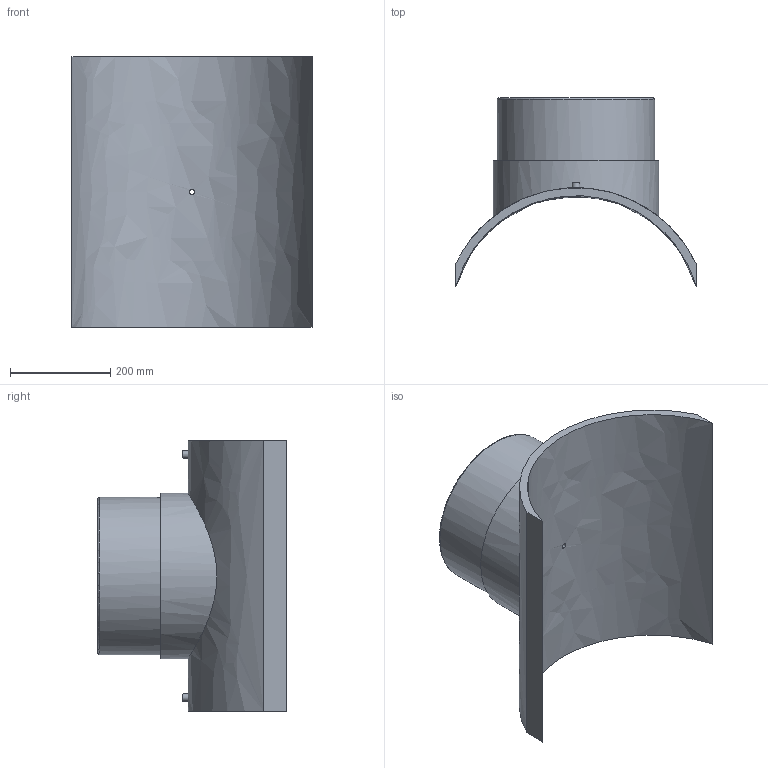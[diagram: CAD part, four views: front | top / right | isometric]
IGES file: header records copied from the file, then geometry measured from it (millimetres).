
Global section: file name: 495803500315T; native system: Autodesk Inventor 2019; preprocessor: unknown; author: KIM; date: 20240404.114854; units: millimetre
Bounding box: 480 x 376 x 540 mm (x, y, z)
Volume: 11616772.3 mm3; surface area: 1108439.6 mm2
Topology: 1 solids, 1 shells, 29 faces, 60 edges, 43 vertices
Faces by surface type: bspline 29
